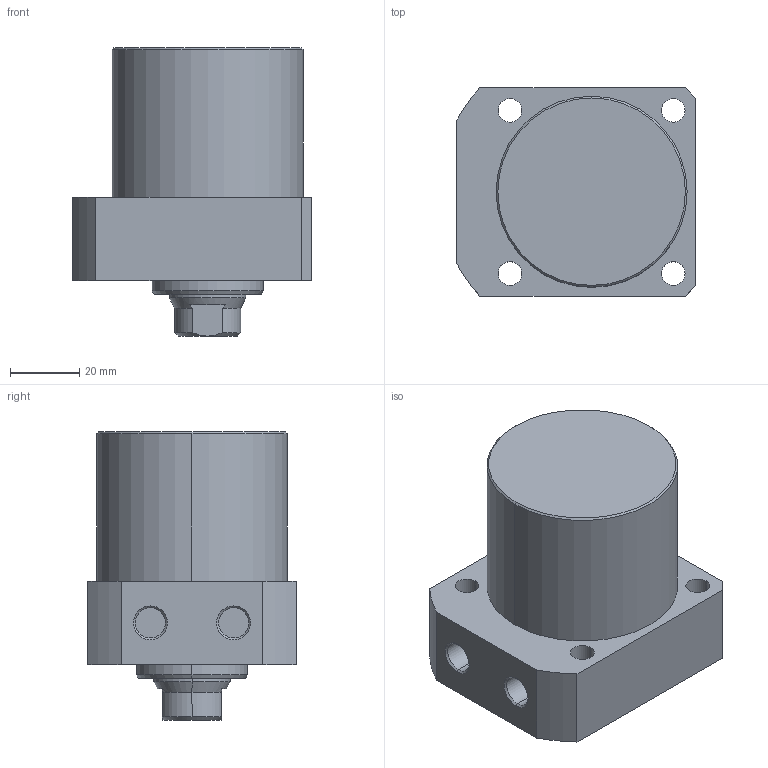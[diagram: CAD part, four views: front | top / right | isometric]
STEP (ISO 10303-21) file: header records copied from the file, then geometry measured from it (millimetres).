
FILE_DESCRIPTION (( 'STEP AP203' ), '1' );
FILE_NAME ('CLLR-055CA-030.STEP', '2019-12-19T07:23:49', ( '' ), ( '' ), 'SwSTEP 2.0', 'SolidWorks 2015', '' );
FILE_SCHEMA (( 'CONFIG_CONTROL_DESIGN' ));
Length unit declared in the file: millimetre
Products named in the file (1): CLLR-055CA-030
Bounding box: 69 x 60 x 83 mm (x, y, z)
Volume: 199797.5 mm3; surface area: 25611.9 mm2
Topology: 1 solids, 1 shells, 65 faces, 151 edges, 94 vertices
Faces by surface type: cylinder 29, plane 19, cone 17
Entity records: 1967 total; most frequent: CARTESIAN_POINT 349, DIRECTION 348, ORIENTED_EDGE 298, EDGE_CURVE 149, AXIS2_PLACEMENT_3D 141, VERTEX_POINT 94, EDGE_LOOP 81, CIRCLE 75
